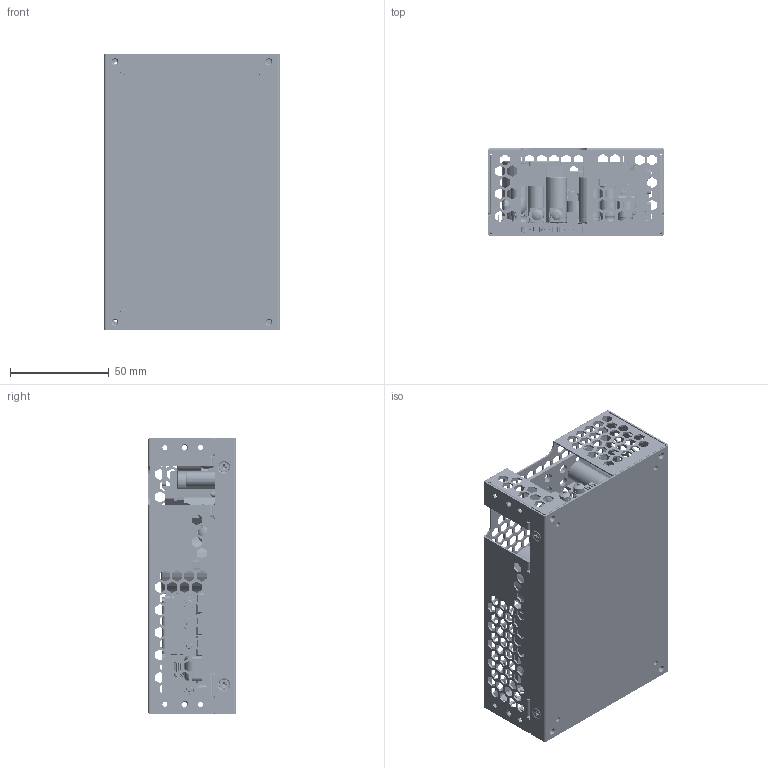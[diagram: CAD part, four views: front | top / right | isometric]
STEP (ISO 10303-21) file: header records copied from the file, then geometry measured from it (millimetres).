
FILE_DESCRIPTION((''),'2;1');
FILE_NAME('MDS-400ADB12_AA_ASM','2016-06-02T',('TONY.CH.YU'),(''),'PRO/ENGINEER BY PARAMETRIC TECHNOLOGY CORPORATION, 2010280','PRO/ENGINEER BY PARAMETRIC TECHNOLOGY CORPORATION, 2010280','');
FILE_SCHEMA(('CONFIG_CONTROL_DESIGN'));
Products named in the file (207): BOTTOM_1-4248; STANDOFF-M3_1; BOTTOM_1-4262_ASM; TOP_1-146391; TOP_1-146402_ASM; INSULATOR_1; M3X4_GB819_1; ISO7045-M3X4-4_8_1; ENCLOSURE_ASM; MDS-400APB12_AA_PCB_AF1_1; HEAT_SINK-1_AF1_1; PIN_AF0_1; PIN_AF1_1; HEAT_SINK-1_AF0_1_ASM; Q5_Q6_AF0_1; Q5_Q6_AF1_1; BD1_AF0_1; 3105319000_M3X6_GB822_1; PRT0001; PRT0074; HSK1_AF0_1_ASM; HEAT_SINK-2_AF1_1; PIN_AF2_1; PIN_AF3_1; HEAT_SINK-2_AF0_1_ASM; D10_AF0_1; Q5_Q6_AF2_1; Q5_Q6_AF3_1; 3105456700_M3X7_GB819_1; 3110110100_M3_GB6170_1; HSK2_AF0_1_ASM; HEAT_SINK-3_AF1_1; PIN_AF4_1; PIN_AF5_1; HEAT_SINK-3_AF0_1_ASM; Q102_Q101_D101_AF0_1; Q102_Q101_D101_AF1_1; HSK3_AF0_1_ASM; HEAT_SINK-4_1; Q5_Q6_AF4_1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
Assembly tree (236 placements, depth 6):
  MDS-400ADB12_AA_ASM
    ENCLOSURE_ASM
      BOTTOM_1-4262_ASM
        BOTTOM_1-4248
        STANDOFF-M3_1  x4
      TOP_1-146402_ASM
        TOP_1-146391
      INSULATOR_1
      M3X4_GB819_1  x4
      ISO7045-M3X4-4_8_1  x4
    MDS-400APB12_AA_ASM
      MDS-400APB12_AA_1_ASM
        MDS-400APB12_AA_PCB_AF1_1
        HSK1_AF0_1_ASM
          HEAT_SINK-1_AF0_1_ASM
            HEAT_SINK-1_AF1_1
            PIN_AF0_1
            PIN_AF1_1
          Q5_Q6_AF0_1
          Q5_Q6_AF1_1
          BD1_AF0_1
          3105319000_M3X6_GB822_1
          PRT0001  x2
          PRT0074  x2
        HSK2_AF0_1_ASM
          HEAT_SINK-2_AF0_1_ASM
            HEAT_SINK-2_AF1_1
            PIN_AF2_1
            PIN_AF3_1
          D10_AF0_1
          Q5_Q6_AF2_1
          Q5_Q6_AF3_1
          3105456700_M3X7_GB819_1  x3
          3110110100_M3_GB6170_1  x3
        HSK3_AF0_1_ASM
          HEAT_SINK-3_AF0_1_ASM
            HEAT_SINK-3_AF1_1
            PIN_AF4_1
            PIN_AF5_1
          Q102_Q101_D101_AF0_1
          Q102_Q101_D101_AF1_1
          3105456700_M3X7_GB819_1  x2
          3110110100_M3_GB6170_1  x2
        HSK4_AF0_1_ASM
          HEAT_SINK-4_1
          Q5_Q6_AF4_1
          Q5_Q6_AF5_1
          3105451900_M3X11_GB822_1
          3110110100_M3_GB6170_1
        C1_AF0_1
        CX1_AF0_1
        CN101_AF0_1
        C3_AF0_1
        OUTPUT_TERMINAL_AF0_1
        OUTPUT_TERMINAL_AF1_1
        C5_AF0_1
        C6_AF0_1
        CY_AF0_1
        CY_AF1_1
        CY_AF2_1
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Bounding box: 88.9 x 44.4 x 140 mm (x, y, z)
Volume: 172724.7 mm3; surface area: 227212 mm2
Topology: 247 solids, 248 shells, 11727 faces, 30871 edges, 19484 vertices
Faces by surface type: plane 6472, cylinder 3098, torus 1377, bspline 336, cone 277, sphere 126, revolution 24, extrusion 17
Entity records: 359189 total; most frequent: CARTESIAN_POINT 89164, DIRECTION 55532, ORIENTED_EDGE 55420, EDGE_CURVE 27710, VECTOR 19102, LINE 19085, AXIS2_PLACEMENT_3D 18205, VERTEX_POINT 17718
